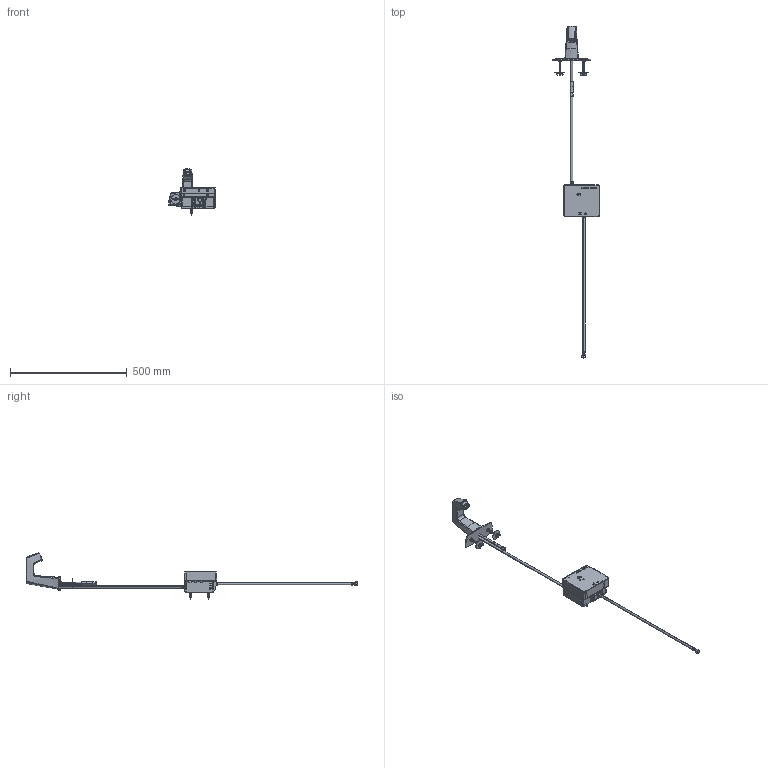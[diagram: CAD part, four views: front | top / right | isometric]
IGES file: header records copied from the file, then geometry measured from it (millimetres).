
Start section:  PTC IGES file: eq-b12a-11abcp_sw0001.igs
Global section: file name: eq-b12a-11abcp_sw0001.igs; native system: Creo Parametric by Parametric Technology Corporation; preprocessor: 2013050; author: jrodriguez; organization: Unknown; date: 20140919.142851; units: inch
Bounding box: 201.58 x 1421.25 x 200.12 mm (x, y, z)
Surface area: 441742.8 mm2 (no closed solid volume)
Topology: 0 solids, 0 shells, 1869 faces, 18283 edges, 25604 vertices
Faces by surface type: bspline 1054, revolution 779, extrusion 36
